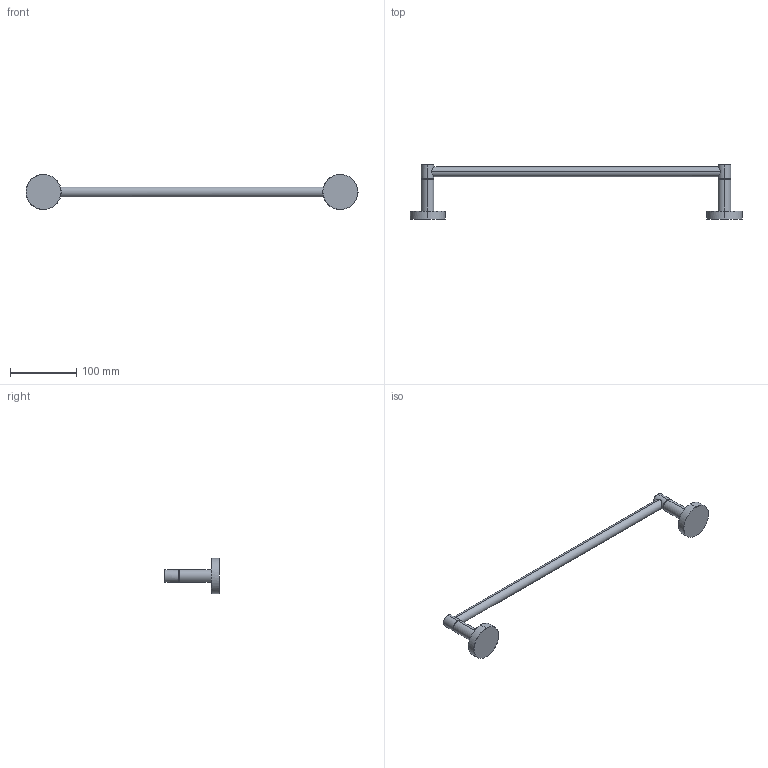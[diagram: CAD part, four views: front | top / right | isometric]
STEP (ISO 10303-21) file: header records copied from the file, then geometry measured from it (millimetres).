
FILE_DESCRIPTION(('THIS FILE CONTAINS SOME STEP INSTANCES'),'1');
FILE_NAME('HAR 027-light.stp','2015-11-17T13:20:07',('UNDEFINED'),('UNDEFINED'),'T-FLEX CAD STEP converter','T-FLEX CAD','');
FILE_SCHEMA(('CONFIG_CONTROL_DESIGN'));
Length unit declared in the file: metre
Products named in the file (1): har_027
Bounding box: 499.93 x 82 x 53 mm (x, y, z)
Volume: 168437.1 mm3; surface area: 41092.9 mm2
Topology: 1 solids, 1 shells, 56 faces, 112 edges, 66 vertices
Faces by surface type: cone 24, cylinder 18, plane 10, bspline 4
Entity records: 3374 total; most frequent: CARTESIAN_POINT 2385, ORIENTED_EDGE 224, DIRECTION 162, EDGE_CURVE 112, VERTEX_POINT 66, EDGE_LOOP 64, AXIS2_PLACEMENT_3D 60, ADVANCED_FACE 56
